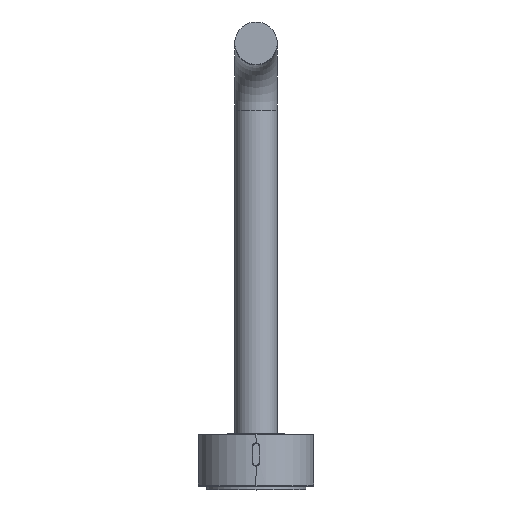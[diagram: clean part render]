
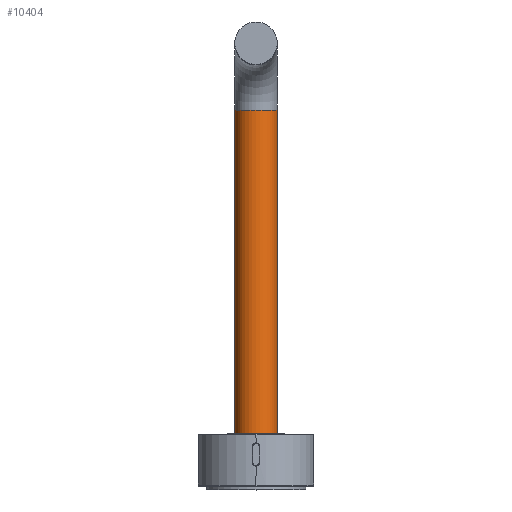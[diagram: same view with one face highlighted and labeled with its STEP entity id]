
A CAD part, top view. The second image highlights one B-rep face of the part: STEP entity #10404.
In plain terms, the highlighted cylindrical face has radius 12 mm (diameter 24 mm), a partial arc.
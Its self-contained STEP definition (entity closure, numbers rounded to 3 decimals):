
#4651=CARTESIAN_POINT('',(0.,214.2,0.));
#4652=DIRECTION('',(0.,-1.,0.));
#4653=DIRECTION('',(1.,0.,0.));
#4654=AXIS2_PLACEMENT_3D('',#4651,#4652,#4653);
#4661=DIRECTION('',(0.,-1.,0.));
#4662=VECTOR('',#4661,182.5);
#4663=CARTESIAN_POINT('',(-12.,214.2,0.));
#4664=LINE('',#4663,#4662);
#4665=DIRECTION('',(0.,-1.,0.));
#4666=VECTOR('',#4665,182.5);
#4667=CARTESIAN_POINT('',(12.,214.2,0.));
#4668=LINE('',#4667,#4666);
#4771=CARTESIAN_POINT('',(0.,31.7,0.));
#4772=DIRECTION('',(0.,-1.,0.));
#4773=DIRECTION('',(1.,0.,0.));
#4774=AXIS2_PLACEMENT_3D('',#4771,#4772,#4773);
#6723=CARTESIAN_POINT('',(12.,214.2,0.));
#6724=CARTESIAN_POINT('',(12.,31.7,0.));
#6725=VERTEX_POINT('',#6723);
#6726=VERTEX_POINT('',#6724);
#6727=CARTESIAN_POINT('',(-12.,31.7,0.));
#6728=VERTEX_POINT('',#6727);
#6729=CARTESIAN_POINT('',(-12.,214.2,0.));
#6730=VERTEX_POINT('',#6729);
#10390=CARTESIAN_POINT('',(0.,31.7,0.));
#10391=DIRECTION('',(0.,-1.,0.));
#10392=DIRECTION('',(-1.,0.,0.));
#10393=AXIS2_PLACEMENT_3D('',#10390,#10391,#10392);
#10394=CYLINDRICAL_SURFACE('',#10393,12.);
#10395=ORIENTED_EDGE('',*,*,#10377,.F.);
#10397=ORIENTED_EDGE('',*,*,#10396,.T.);
#10399=ORIENTED_EDGE('',*,*,#10398,.T.);
#10401=ORIENTED_EDGE('',*,*,#10400,.F.);
#10402=EDGE_LOOP('',(#10395,#10397,#10399,#10401));
#10403=FACE_OUTER_BOUND('',#10402,.F.);
#4655=CIRCLE('',#4654,12.);
#4775=CIRCLE('',#4774,12.);
#10377=EDGE_CURVE('',#6725,#6730,#4655,.T.);
#10396=EDGE_CURVE('',#6725,#6726,#4668,.T.);
#10398=EDGE_CURVE('',#6726,#6728,#4775,.T.);
#10400=EDGE_CURVE('',#6730,#6728,#4664,.T.);
#10404=ADVANCED_FACE('',(#10403),#10394,.T.);
